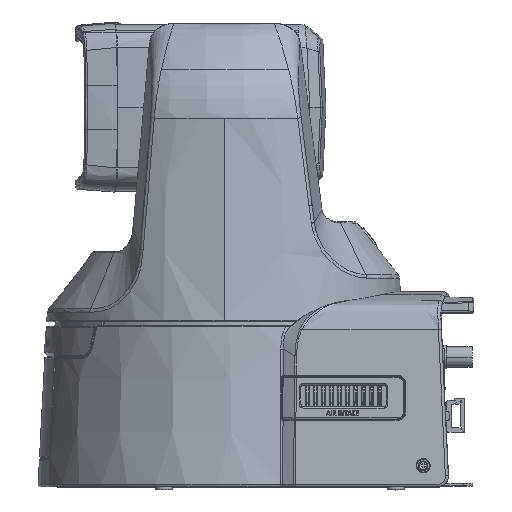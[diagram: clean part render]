
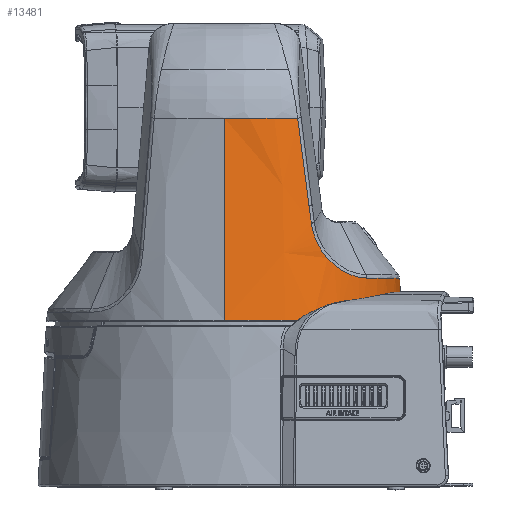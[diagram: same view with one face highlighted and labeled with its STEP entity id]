
A CAD part, top view. The second image highlights one B-rep face of the part: STEP entity #13481.
In plain terms, the highlighted conical face has half-angle 3 degrees and reference radius 78.943 mm.
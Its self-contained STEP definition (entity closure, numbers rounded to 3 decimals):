
#1494=CONICAL_SURFACE('',#191171,78.943,3.);
#4968=B_SPLINE_CURVE_WITH_KNOTS('',3,(#143146,#143152,#143153,#143154,#143155,#143156,#143112),.UNSPECIFIED.,.F.,.U.,(4,1,1,1,4),(0.,0.25,0.5,0.75,1.),.UNSPECIFIED.);
#4985=B_SPLINE_CURVE_WITH_KNOTS('',3,(#143811,#143827,#143828,#143829,#143830,#143831,#143826),.UNSPECIFIED.,.F.,.U.,(4,1,1,1,4),(0.,0.25,0.5,0.75,1.),.UNSPECIFIED.);
#5005=B_SPLINE_CURVE_WITH_KNOTS('',3,(#144713,#144714,#144715,#144716,#144717,#144718,#144719,#144720,#144721,#144722),.UNSPECIFIED.,.F.,.U.,(4,1,1,1,1,1,1,4),(0.,0.11,0.272,0.468,0.66,0.801,0.901,1.),.UNSPECIFIED.);
#5018=B_SPLINE_CURVE_WITH_KNOTS('',3,(#146286,#146293,#146294,#143112),.UNSPECIFIED.,.F.,.U.,(4,4),(0.,1.),.UNSPECIFIED.);
#5052=B_SPLINE_CURVE_WITH_KNOTS('',3,(#144710,#150240,#150241,#150234),.UNSPECIFIED.,.F.,.U.,(4,4),(0.,1.),.UNSPECIFIED.);
#5053=B_SPLINE_CURVE_WITH_KNOTS('',3,(#150234,#150384,#150385,#150386,#150387,#150388,#150389,#150390,#150391,#150392,#150393,#150394,#150395,#150382),.UNSPECIFIED.,.F.,.U.,(4,1,1,1,1,1,1,1,1,1,1,4),(0.,0.063,0.126,0.188,0.251,0.314,0.376,0.501,0.625,0.75,0.875,1.),.UNSPECIFIED.);
#5054=B_SPLINE_CURVE_WITH_KNOTS('',3,(#150382,#150608,#150609,#150610,#150611,#150612,#150613,#150614,#150615,#150616,#150617,#150618,#150619,#150620,#150621,#150622,#150623,#150624,#150606),.UNSPECIFIED.,.F.,.U.,(4,1,1,1,1,1,1,1,1,1,1,1,1,1,1,1,4),(0.,0.063,0.125,0.187,0.25,0.312,0.375,0.437,0.499,0.562,0.625,0.687,0.749,0.812,0.875,0.937,1.),.UNSPECIFIED.);
#5055=B_SPLINE_CURVE_WITH_KNOTS('',3,(#150634,#150635,#150636,#146286),.UNSPECIFIED.,.F.,.U.,(4,4),(0.,1.),.UNSPECIFIED.);
#5057=B_SPLINE_CURVE_WITH_KNOTS('',3,(#150606,#150780,#150781,#150782,#150783,#150784,#150785,#150786,#150787,#150788,#150789,#150790,#150791,#150634),.UNSPECIFIED.,.F.,.U.,(4,1,1,1,1,1,1,1,1,1,1,4),(0.,0.125,0.25,0.375,0.499,0.624,0.686,0.749,0.812,0.874,0.937,1.),.UNSPECIFIED.);
#9030=CIRCLE('',#191172,83.946);
#13481=ADVANCED_FACE('',(#18220),#1494,.T.);
#18220=FACE_OUTER_BOUND('',#78314,.T.);
#39439=ORIENTED_EDGE('',*,*,#53192,.T.);
#39440=ORIENTED_EDGE('',*,*,#53193,.T.);
#39441=ORIENTED_EDGE('',*,*,#52664,.F.);
#39442=ORIENTED_EDGE('',*,*,#52696,.T.);
#39443=ORIENTED_EDGE('',*,*,#52751,.T.);
#39444=ORIENTED_EDGE('',*,*,#52753,.T.);
#39445=ORIENTED_EDGE('',*,*,#52755,.T.);
#39446=ORIENTED_EDGE('',*,*,#52758,.T.);
#39447=ORIENTED_EDGE('',*,*,#52756,.T.);
#39448=ORIENTED_EDGE('',*,*,#52710,.T.);
#39449=ORIENTED_EDGE('',*,*,#52647,.F.);
#39450=ORIENTED_EDGE('',*,*,#53194,.F.);
#52647=EDGE_CURVE('11858',#72705,#72703,#4968,.T.);
#52664=EDGE_CURVE('11252',#72717,#72718,#4985,.T.);
#52696=EDGE_CURVE('8863',#72717,#72739,#5005,.T.);
#52710=EDGE_CURVE('8857',#72744,#72703,#5018,.T.);
#52751=EDGE_CURVE('8864',#72739,#72749,#5052,.T.);
#52753=EDGE_CURVE('8865',#72749,#72750,#5053,.T.);
#52755=EDGE_CURVE('8866',#72750,#72751,#5054,.T.);
#52756=EDGE_CURVE('8856',#72752,#72744,#5055,.T.);
#52758=EDGE_CURVE('8855',#72751,#72752,#5057,.T.);
#53192=EDGE_CURVE('11250',#73014,#73015,#9030,.T.);
#53193=EDGE_CURVE('11249',#73015,#72718,#66324,.T.);
#53194=EDGE_CURVE('11859',#73014,#72705,#66325,.T.);
#60488=VECTOR('',#192041,95.605);
#60489=VECTOR('',#192020,95.605);
#66324=LINE('',#163212,#60488);
#66325=LINE('',#163211,#60489);
#72703=VERTEX_POINT('5752',#143112);
#72705=VERTEX_POINT('7415',#143146);
#72717=VERTEX_POINT('5763',#143811);
#72718=VERTEX_POINT('7193',#143826);
#72739=VERTEX_POINT('5777',#144710);
#72744=VERTEX_POINT('5772',#146286);
#72749=VERTEX_POINT('5778',#150234);
#72750=VERTEX_POINT('5779',#150382);
#72751=VERTEX_POINT('5770',#150606);
#72752=VERTEX_POINT('5771',#150634);
#73014=VERTEX_POINT('5769',#163211);
#73015=VERTEX_POINT('7192',#163212);
#78314=EDGE_LOOP('',(#39439,#39440,#39441,#39442,#39443,#39444,#39445,#39446,#39447,#39448,#39449,#39450));
#143112=CARTESIAN_POINT('',(34.661,-5.,70.926));
#143146=CARTESIAN_POINT('',(0.,-5.,78.943));
#143152=CARTESIAN_POINT('',(2.986,-5.,78.943));
#143153=CARTESIAN_POINT('',(8.965,-5.,78.603));
#143154=CARTESIAN_POINT('',(17.827,-5.,77.079));
#143155=CARTESIAN_POINT('',(26.458,-5.,74.558));
#143156=CARTESIAN_POINT('',(31.978,-5.,72.238));
#143811=CARTESIAN_POINT('',(34.661,-5.,-70.926));
#143826=CARTESIAN_POINT('',(0.,-5.,-78.943));
#143827=CARTESIAN_POINT('',(31.978,-5.,-72.238));
#143828=CARTESIAN_POINT('',(26.458,-5.,-74.558));
#143829=CARTESIAN_POINT('',(17.826,-5.,-77.079));
#143830=CARTESIAN_POINT('',(8.965,-5.,-78.603));
#143831=CARTESIAN_POINT('',(2.986,-5.,-78.943));
#144710=CARTESIAN_POINT('',(39.982,-46.175,-70.56));
#144713=CARTESIAN_POINT('',(34.661,-5.,-70.926));
#144714=CARTESIAN_POINT('',(34.802,-6.092,-70.921));
#144715=CARTESIAN_POINT('',(35.098,-8.392,-70.91));
#144716=CARTESIAN_POINT('',(36.032,-15.65,-70.869));
#144717=CARTESIAN_POINT('',(37.3,-25.47,-70.794));
#144718=CARTESIAN_POINT('',(38.562,-35.229,-70.695));
#144719=CARTESIAN_POINT('',(39.274,-40.715,-70.63));
#144720=CARTESIAN_POINT('',(39.631,-43.463,-70.596));
#144721=CARTESIAN_POINT('',(39.867,-45.289,-70.572));
#144722=CARTESIAN_POINT('',(39.982,-46.175,-70.56));
#146286=CARTESIAN_POINT('',(39.982,-46.175,70.56));
#146293=CARTESIAN_POINT('',(38.2,-32.451,70.743));
#146294=CARTESIAN_POINT('',(36.427,-18.726,70.864));
#150234=CARTESIAN_POINT('',(41.075,-54.593,-70.44));
#150240=CARTESIAN_POINT('',(40.346,-48.981,-70.523));
#150241=CARTESIAN_POINT('',(40.71,-51.787,-70.483));
#150382=CARTESIAN_POINT('',(67.251,-80.486,-48.471));
#150384=CARTESIAN_POINT('',(41.204,-55.581,-70.426));
#150385=CARTESIAN_POINT('',(41.557,-57.536,-70.338));
#150386=CARTESIAN_POINT('',(42.367,-60.377,-70.028));
#150387=CARTESIAN_POINT('',(43.436,-63.096,-69.54));
#150388=CARTESIAN_POINT('',(44.743,-65.672,-68.869));
#150389=CARTESIAN_POINT('',(46.256,-68.075,-68.017));
#150390=CARTESIAN_POINT('',(48.496,-71.022,-66.645));
#150391=CARTESIAN_POINT('',(51.63,-74.191,-64.497));
#150392=CARTESIAN_POINT('',(55.663,-77.106,-61.271));
#150393=CARTESIAN_POINT('',(59.738,-79.119,-57.468));
#150394=CARTESIAN_POINT('',(63.669,-80.26,-53.179));
#150395=CARTESIAN_POINT('',(66.1,-80.488,-50.069));
#150606=CARTESIAN_POINT('',(67.251,-80.486,48.471));
#150608=CARTESIAN_POINT('',(68.516,-80.484,-46.717));
#150609=CARTESIAN_POINT('',(70.901,-80.481,-43.119));
#150610=CARTESIAN_POINT('',(74.04,-80.477,-37.47));
#150611=CARTESIAN_POINT('',(76.73,-80.473,-31.601));
#150612=CARTESIAN_POINT('',(78.961,-80.47,-25.52));
#150613=CARTESIAN_POINT('',(80.712,-80.469,-19.279));
#150614=CARTESIAN_POINT('',(81.967,-80.467,-12.931));
#150615=CARTESIAN_POINT('',(82.725,-80.466,-6.521));
#150616=CARTESIAN_POINT('',(82.982,-80.465,-0.055));
#150617=CARTESIAN_POINT('',(82.733,-80.466,6.423));
#150618=CARTESIAN_POINT('',(81.979,-80.466,12.855));
#150619=CARTESIAN_POINT('',(80.733,-80.468,19.19));
#150620=CARTESIAN_POINT('',(78.994,-80.47,25.415));
#150621=CARTESIAN_POINT('',(76.769,-80.474,31.507));
#150622=CARTESIAN_POINT('',(74.068,-80.477,37.417));
#150623=CARTESIAN_POINT('',(70.913,-80.481,43.101));
#150624=CARTESIAN_POINT('',(68.518,-80.484,46.713));
#150634=CARTESIAN_POINT('',(41.075,-54.593,70.44));
#150635=CARTESIAN_POINT('',(40.71,-51.787,70.483));
#150636=CARTESIAN_POINT('',(40.346,-48.981,70.523));
#150780=CARTESIAN_POINT('',(66.1,-80.488,50.069));
#150781=CARTESIAN_POINT('',(63.669,-80.26,53.179));
#150782=CARTESIAN_POINT('',(59.738,-79.119,57.468));
#150783=CARTESIAN_POINT('',(55.663,-77.106,61.271));
#150784=CARTESIAN_POINT('',(51.63,-74.191,64.497));
#150785=CARTESIAN_POINT('',(48.496,-71.022,66.645));
#150786=CARTESIAN_POINT('',(46.256,-68.075,68.017));
#150787=CARTESIAN_POINT('',(44.743,-65.672,68.869));
#150788=CARTESIAN_POINT('',(43.436,-63.096,69.54));
#150789=CARTESIAN_POINT('',(42.367,-60.377,70.028));
#150790=CARTESIAN_POINT('',(41.557,-57.536,70.338));
#150791=CARTESIAN_POINT('',(41.204,-55.581,70.426));
#163210=CARTESIAN_POINT('',(0.,-5.,0.));
#163211=CARTESIAN_POINT('',(0.,-100.474,83.946));
#163212=CARTESIAN_POINT('',(0.,-100.474,-83.946));
#163213=CARTESIAN_POINT('',(0.,-100.474,0.));
#191171=AXIS2_PLACEMENT_3D('',#163210,#191937,#191940);
#191172=AXIS2_PLACEMENT_3D('',#163213,#191933,#191930);
#191930=DIRECTION('',(0.,0.,1.));
#191933=DIRECTION('',(0.,1.,0.));
#191937=DIRECTION('',(0.,-1.,0.));
#191940=DIRECTION('',(0.,0.,-1.));
#192020=DIRECTION('',(0.,0.999,-0.052));
#192041=DIRECTION('',(0.,0.999,0.052));
